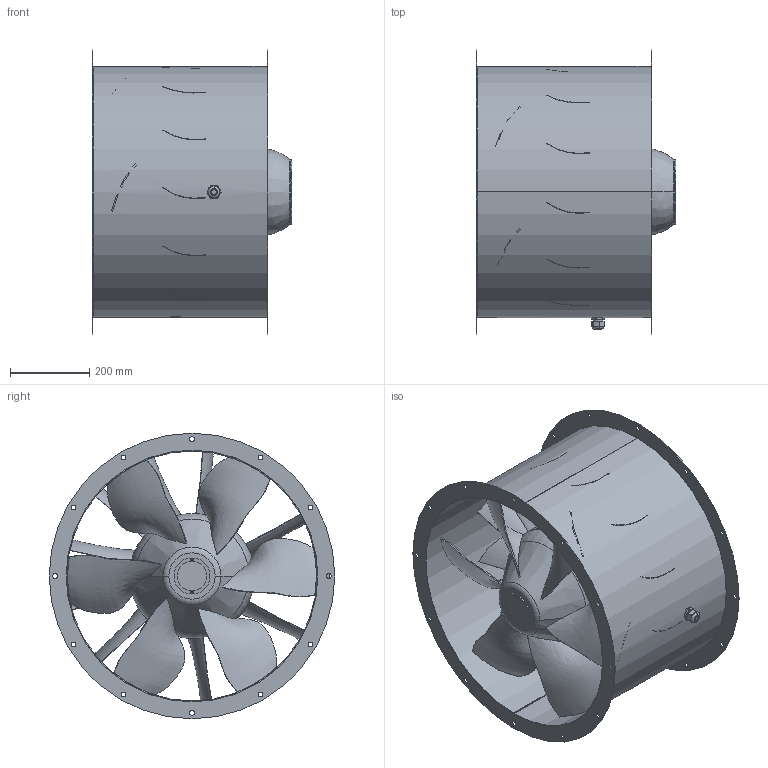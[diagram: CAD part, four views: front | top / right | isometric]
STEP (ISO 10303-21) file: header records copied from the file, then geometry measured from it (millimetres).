
FILE_DESCRIPTION (( 'STEP AP203' ), '1' );
FILE_NAME ('154152-00_AL630D401_step.step', '2020-05-29T11:11:26', ( '' ), ( '' ), 'SwSTEP 2.0', 'SolidWorks 2017', '' );
FILE_SCHEMA (( 'CONFIG_CONTROL_DESIGN' ));
Length unit declared in the file: millimetre
Products named in the file (1): 154152-00_AL630D401_step
Bounding box: 503 x 720 x 720 mm (x, y, z)
Surface area: 3804108.8 mm2 (no closed solid volume)
Topology: 0 solids, 174 shells, 1855 faces, 8415 edges, 6473 vertices
Faces by surface type: plane 833, cylinder 588, bspline 315, cone 81, torus 38
Entity records: 529902 total; most frequent: CARTESIAN_POINT 470073, ORIENTED_EDGE 10873, DIRECTION 10384, EDGE_CURVE 8397, VERTEX_POINT 6473, VECTOR 4348, LINE 4348, AXIS2_PLACEMENT_3D 3018
